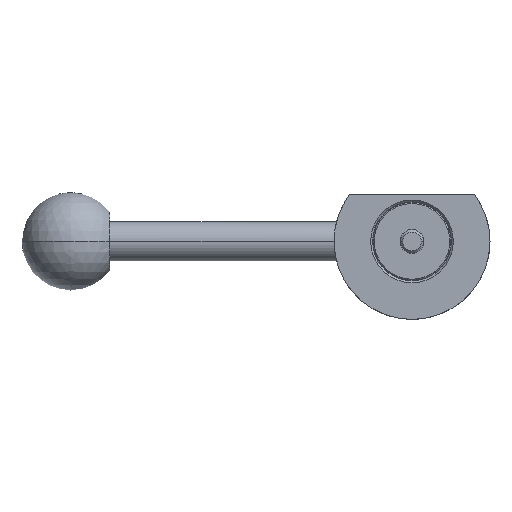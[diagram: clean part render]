
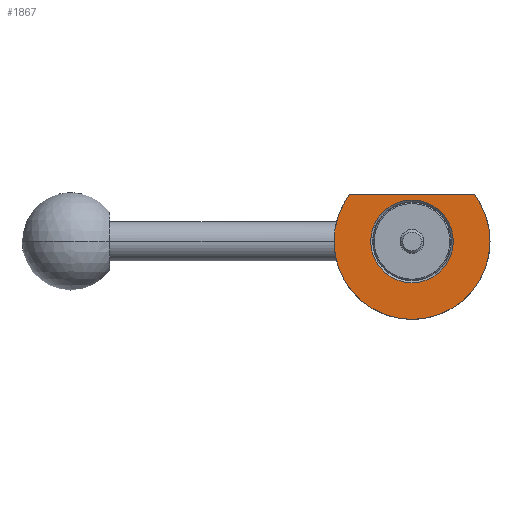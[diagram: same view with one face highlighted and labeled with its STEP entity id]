
A CAD part, front view. The second image highlights one B-rep face of the part: STEP entity #1867.
In plain terms, the highlighted planar face has unit normal (0, -1, 0).
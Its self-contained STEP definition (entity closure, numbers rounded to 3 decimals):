
#3 = PLANE ( 'NONE',  #1032 ) ;
#22 = CARTESIAN_POINT ( 'NONE',  ( -16.001, -10., 11.999 ) ) ;
#94 = VERTEX_POINT ( 'NONE', #1442 ) ;
#99 = CARTESIAN_POINT ( 'NONE',  ( 0., -10., 0. ) ) ;
#159 = ORIENTED_EDGE ( 'NONE', *, *, #535, .F. ) ;
#209 = AXIS2_PLACEMENT_3D ( 'NONE', #1120, #1490, #235 ) ;
#235 = DIRECTION ( 'NONE',  ( -1., 0., 0. ) ) ;
#279 = DIRECTION ( 'NONE',  ( -1., 0., 0. ) ) ;
#296 = VECTOR ( 'NONE', #279, 1000. ) ;
#347 = DIRECTION ( 'NONE',  ( 0., -1., 0. ) ) ;
#378 = CARTESIAN_POINT ( 'NONE',  ( 16.001, -10., 11.999 ) ) ;
#408 = ORIENTED_EDGE ( 'NONE', *, *, #1705, .T. ) ;
#427 = CIRCLE ( 'NONE', #1124, 20. ) ;
#439 = EDGE_CURVE ( 'NONE', #453, #900, #1803, .T. ) ;
#453 = VERTEX_POINT ( 'NONE', #378 ) ;
#481 = EDGE_CURVE ( 'NONE', #967, #1655, #1449, .T. ) ;
#535 = EDGE_CURVE ( 'NONE', #94, #1218, #614, .T. ) ;
#553 = ORIENTED_EDGE ( 'NONE', *, *, #439, .F. ) ;
#577 = ORIENTED_EDGE ( 'NONE', *, *, #1933, .T. ) ;
#600 = LINE ( 'NONE', #1238, #296 ) ;
#614 = CIRCLE ( 'NONE', #1767, 20. ) ;
#647 = CARTESIAN_POINT ( 'NONE',  ( -10.6, -10., 0. ) ) ;
#664 = CARTESIAN_POINT ( 'NONE',  ( 0., -10., 0. ) ) ;
#678 = CARTESIAN_POINT ( 'NONE',  ( 20., -10., 0. ) ) ;
#703 = DIRECTION ( 'NONE',  ( 0., 1., 0. ) ) ;
#725 = CARTESIAN_POINT ( 'NONE',  ( 0., -10., 0. ) ) ;
#742 = DIRECTION ( 'NONE',  ( -1., 0., 0. ) ) ;
#837 = CARTESIAN_POINT ( 'NONE',  ( 0., -10., 0. ) ) ;
#853 = CARTESIAN_POINT ( 'NONE',  ( -10.6, -10., 0. ) ) ;
#869 = EDGE_CURVE ( 'NONE', #900, #94, #427, .T. ) ;
#900 = VERTEX_POINT ( 'NONE', #678 ) ;
#967 = VERTEX_POINT ( 'NONE', #853 ) ;
#970 = EDGE_LOOP ( 'NONE', ( #577, #1028 ) ) ;
#974 = AXIS2_PLACEMENT_3D ( 'NONE', #664, #1190, #1201 ) ;
#1028 = ORIENTED_EDGE ( 'NONE', *, *, #481, .T. ) ;
#1032 = AXIS2_PLACEMENT_3D ( 'NONE', #647, #347, #1762 ) ;
#1120 = CARTESIAN_POINT ( 'NONE',  ( 0., -10., 0. ) ) ;
#1124 = AXIS2_PLACEMENT_3D ( 'NONE', #837, #1157, #1954 ) ;
#1152 = ORIENTED_EDGE ( 'NONE', *, *, #869, .F. ) ;
#1157 = DIRECTION ( 'NONE',  ( 0., 1., 0. ) ) ;
#1190 = DIRECTION ( 'NONE',  ( 0., 1., 0. ) ) ;
#1201 = DIRECTION ( 'NONE',  ( -1., 0., 0. ) ) ;
#1218 = VERTEX_POINT ( 'NONE', #22 ) ;
#1238 = CARTESIAN_POINT ( 'NONE',  ( -10.6, -10., 11.999 ) ) ;
#1357 = DIRECTION ( 'NONE',  ( -1., 0., 0. ) ) ;
#1439 = FACE_BOUND ( 'NONE', #970, .T. ) ;
#1442 = CARTESIAN_POINT ( 'NONE',  ( -20., -10., 0. ) ) ;
#1449 = CIRCLE ( 'NONE', #974, 10.6 ) ;
#1490 = DIRECTION ( 'NONE',  ( 0., 1., 0. ) ) ;
#1503 = EDGE_LOOP ( 'NONE', ( #553, #408, #159, #1152 ) ) ;
#1534 = DIRECTION ( 'NONE',  ( 0., 1., 0. ) ) ;
#1612 = FACE_OUTER_BOUND ( 'NONE', #1503, .T. ) ;
#1617 = AXIS2_PLACEMENT_3D ( 'NONE', #99, #1534, #742 ) ;
#1655 = VERTEX_POINT ( 'NONE', #1729 ) ;
#1705 = EDGE_CURVE ( 'NONE', #453, #1218, #600, .T. ) ;
#1729 = CARTESIAN_POINT ( 'NONE',  ( 10.6, -10., 0. ) ) ;
#1762 = DIRECTION ( 'NONE',  ( 1., 0., 0. ) ) ;
#1767 = AXIS2_PLACEMENT_3D ( 'NONE', #725, #703, #1357 ) ;
#1803 = CIRCLE ( 'NONE', #209, 20. ) ;
#1867 = ADVANCED_FACE ( 'NONE', ( #1439, #1612 ), #3, .T. ) ;
#1933 = EDGE_CURVE ( 'NONE', #1655, #967, #1995, .T. ) ;
#1954 = DIRECTION ( 'NONE',  ( -1., 0., 0. ) ) ;
#1995 = CIRCLE ( 'NONE', #1617, 10.6 ) ;
